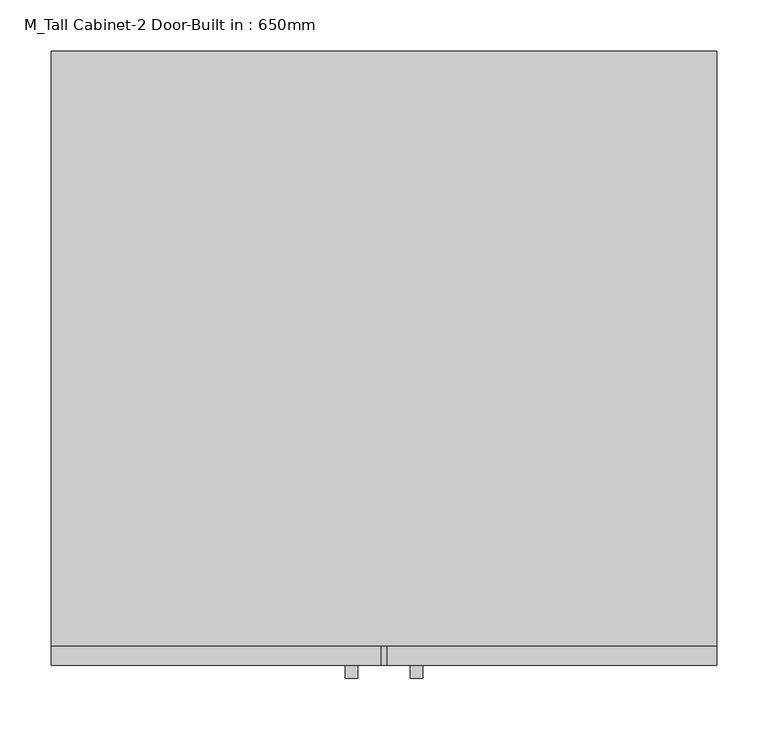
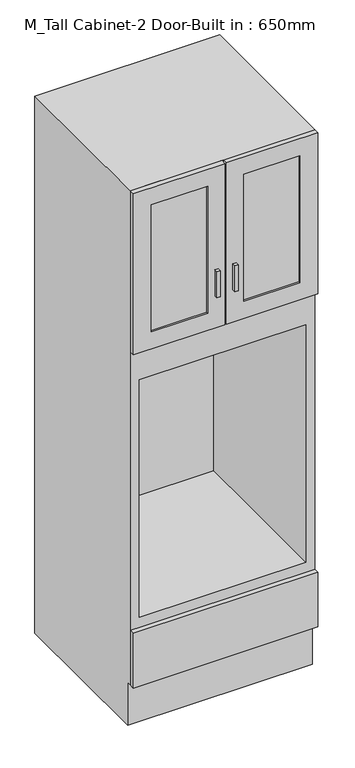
"""IFC4 building model written with IfcOpenShell, lengths in millimetres: furniture geometry, M_Tall Cabinet-2 Door-Built in : 650mm."""

from ifc_helpers import new_model, si_unit, frame, origin, place, context, project, spatial, polyline, outline, extrude, faceted_brep, source, transform, mapped, element, save


def m_tall_cabinet_2_door_built_in_650mm_83a7ffa1(model_context):
    return source(origin(), model_context, "Body", "SolidModel", [
        faceted_brep([(343.7377049, -580.95, 160.0), (343.7377049, -580.95, 2000.0), (-306.2622951, -580.95, 2000.0), (-306.2622951, -580.95, 160.0), (311.9877049, -580.95, 400.0), (-274.5122951, -580.95, 400.0), (-274.5122951, -580.95, 1285.0), (311.9877049, -580.95, 1285.0), (-287.2122951, -580.95, 1980.95), (324.6877049, -580.95, 1980.95), (324.6877049, -580.95, 1400.0), (-287.2122951, -580.95, 1400.0), (-306.2622951, 0.0, 2000.0), (343.7377049, 0.0, 2000.0), (343.7377049, 0.0, 0.0), (-306.2622951, 0.0, 0.0), (324.6877049, 0.0, 1980.95), (-287.2122951, 0.0, 1980.95), (-287.2122951, 0.0, 179.05), (324.6877049, 0.0, 179.05), (343.7377049, -565.0, 160.0), (343.7377049, -565.0, 0.0), (-306.2622951, -565.0, 0.0), (-306.2622951, -565.0, 160.0), (324.6877049, -19.05, 179.05), (324.6877049, -19.05, 1400.0), (-287.2122951, -19.05, 179.05), (-287.2122951, -19.05, 1400.0), (311.9877049, -19.05, 400.0), (311.9877049, -19.05, 1285.0), (-274.5122951, -19.05, 1285.0), (-274.5122951, -19.05, 400.0)], [[[0, 1, 2, 3], [4, 5, 6, 7], [8, 9, 10, 11]], [[12, 13, 14, 15], [16, 17, 18, 19]], [[1, 0, 20, 21, 14, 13]], [[2, 1, 13, 12]], [[3, 2, 12, 15, 22, 23]], [[0, 3, 23, 20]], [[16, 19, 24, 25, 10, 9]], [[19, 18, 26, 24]], [[18, 17, 8, 11, 27, 26]], [[9, 8, 17, 16]], [[14, 21, 22, 15]], [[22, 21, 20, 23]], [[27, 25, 24, 26], [28, 29, 30, 31]], [[11, 10, 25, 27]], [[5, 4, 28, 31]], [[6, 5, 31, 30]], [[7, 6, 30, 29]], [[4, 7, 29, 28]]]),
        extrude(outline(polyline([(-6.6622951, -612.7), (-19.1945267, -612.7), (-19.1945267, -600.0), (-6.6622951, -600.0), (-6.6622951, -612.7)])), frame((0.0, 0.0, 1520.0542867), z_axis=(0.0, 0.0, 1.0), x_axis=(1.0, 0.0, 0.0)), (0.0, 0.0, 1.0), 96.8),
        extrude(outline(polyline([(56.6699365, -612.7), (44.1377049, -612.7), (44.1377049, -600.0), (56.6699365, -600.0), (56.6699365, -612.7)])), frame((0.0, 0.0, 1520.0542867), z_axis=(0.0, 0.0, 1.0), x_axis=(1.0, 0.0, 0.0)), (0.0, 0.0, 1.0), 96.8),
        extrude(outline(polyline([(343.7377049, -600.0), (-306.2622951, -600.0), (-306.2622951, -580.95), (343.7377049, -580.95), (343.7377049, -600.0)])), frame((0.0, 0.0, 160.0), z_axis=(0.0, 0.0, 1.0), x_axis=(1.0, 0.0, 0.0)), (0.0, 0.0, 1.0), 203.2),
        extrude(outline(polyline([(2000.0, 15.5627049), (2000.0, -306.2622951), (1400.0, -306.2622951), (1400.0, 15.5627049), (2000.0, 15.5627049)]), holes=[polyline([(1936.5, -44.7622951), (1463.5, -44.7622951), (1463.5, -242.7622951), (1936.5, -242.7622951), (1936.5, -44.7622951)])]), frame((0.0, -600.0, 0.0), z_axis=(0.0, 1.0, 0.0), x_axis=(0.0, 0.0, 1.0)), (0.0, 0.0, 1.0), 19.05),
        extrude(outline(polyline([(2000.0, 21.9127049), (1400.0, 21.9127049), (1400.0, 343.7377049), (2000.0, 343.7377049), (2000.0, 21.9127049)]), holes=[polyline([(1936.5, 280.2377049), (1463.5, 280.2377049), (1463.5, 82.2377049), (1936.5, 82.2377049), (1936.5, 280.2377049)])]), frame((0.0, -600.0, 0.0), z_axis=(0.0, 1.0, 0.0), x_axis=(0.0, 0.0, 1.0)), (0.0, 0.0, 1.0), 19.05),
        extrude(outline(polyline([(343.7377049, -600.0), (-306.2622951, -600.0), (-306.2622951, -580.95), (343.7377049, -580.95), (343.7377049, -600.0)])), frame((0.0, 0.0, 160.0), z_axis=(0.0, 0.0, 1.0), x_axis=(1.0, 0.0, 0.0)), (0.0, 0.0, 1.0), 203.2),
        extrude(outline(polyline([(324.6877049, -19.05), (-287.2122951, -19.05), (-287.2122951, 0.0), (324.6877049, 0.0), (324.6877049, -19.05)])), frame((0.0, 0.0, 179.05), z_axis=(0.0, 0.0, 1.0), x_axis=(1.0, 0.0, 0.0)), (0.0, 0.0, 1.0), 1801.9),
        extrude(outline(polyline([(-44.7622951, -593.65), (-242.7622951, -593.65), (-242.7622951, -587.3), (-44.7622951, -587.3), (-44.7622951, -593.65)])), frame((0.0, 0.0, 1463.5), z_axis=(0.0, 0.0, 1.0), x_axis=(1.0, 0.0, 0.0)), (0.0, 0.0, 1.0), 473.0),
        extrude(outline(polyline([(280.2377049, -593.65), (82.2377049, -593.65), (82.2377049, -587.3), (280.2377049, -587.3), (280.2377049, -593.65)])), frame((0.0, 0.0, 1463.5), z_axis=(0.0, 0.0, 1.0), x_axis=(1.0, 0.0, 0.0)), (0.0, 0.0, 1.0), 473.0),
    ])


if __name__ == "__main__":
    model = new_model("IFC4")
    model_context = context("Model", 3, world=origin())
    ifc_project = project(units=[si_unit("LENGTHUNIT", "METRE", prefix="MILLI")], contexts=[model_context])
    site = spatial("IfcSite", under=ifc_project)
    building = spatial("IfcBuilding", under=site)
    placement = place(None, origin())
    m_tall_cabinet_2_door_built_in_650mm_shape = m_tall_cabinet_2_door_built_in_650mm_83a7ffa1(model_context)
    element("IfcFurniture", 1, ObjectType="M_Tall Cabinet-2 Door-Built in : 650mm", at=placement, inside=building, context=model_context, shape_type="MappedRepresentation", body=[
        mapped(m_tall_cabinet_2_door_built_in_650mm_shape, transform((0.0, 0.0, 0.0), x_axis=(1.0, 0.0, 0.0), y_axis=(0.0, 1.0, 0.0), z_axis=(0.0, 0.0, 1.0))),
    ])
    save(model, "model.ifc")
